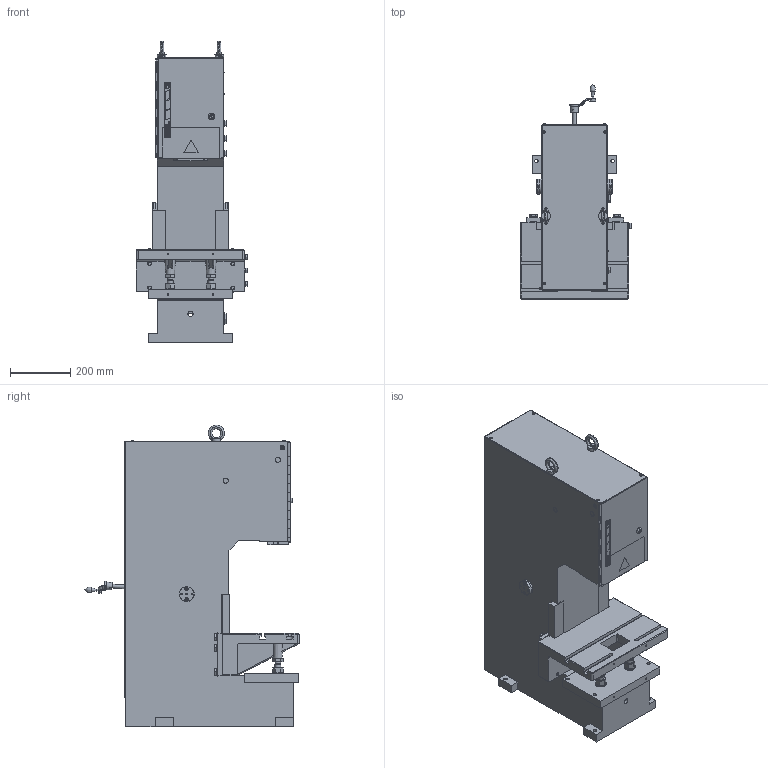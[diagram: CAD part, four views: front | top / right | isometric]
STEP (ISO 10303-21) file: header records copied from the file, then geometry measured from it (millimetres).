
FILE_DESCRIPTION(/* description */ (''),/* implementation_level */ '2;1');
FILE_NAME(/* name */ 'P:\CAD-Daten-für-Kunden\07_Pressen KHP\01_KHP Standard\Presse_KHP_70kN_G800_Hub62_ANR18620.stp',/* time_stamp */ '2021-03-08T07:52:43+01:00',/* author */ ('tse'),/* organization */ (''),/* preprocessor_version */ 'ST-DEVELOPER v18',/* originating_system */ 'Autodesk Inventor 2020',/* authorisation */ '');
FILE_SCHEMA (('AUTOMOTIVE_DESIGN { 1 0 10303 214 3 1 1 }'));
Products named in the file (4): Presse_KHP_70kN_G800_Hub62_ANR18620; Ständereinheit_KHP_50-70kN_G800_V; Tischeinheit_KHP_50-70-100kN_HPC_110kN_ANR18613; Schlittendummy_KHP_50-70-100kN_HPC_110kN_ANR18607
Assembly tree (3 placements, depth 2):
  Presse_KHP_70kN_G800_Hub62_ANR18620
    Ständereinheit_KHP_50-70kN_G800_V
    Tischeinheit_KHP_50-70-100kN_HPC_110kN_ANR18613
    Schlittendummy_KHP_50-70-100kN_HPC_110kN_ANR18607
Bounding box: 370 x 714.17 x 1005 mm (x, y, z)
Volume: 88867551.2 mm3; surface area: 2564762.6 mm2
Topology: 3 solids, 38 shells, 6685 faces, 18054 edges, 12026 vertices
Faces by surface type: plane 3549, bspline 2535, cylinder 381, cone 169, torus 46, sphere 5
Full cylindrical faces by diameter (mm): 1.5 x1, 2 x12, 2.1 x4, 2.5 x2, 3 x11, 3.242 x4, 4 x14, 4.917 x23, 5 x12, 5.9 x1, 6 x5, 6.6 x4, 7 x5, 7.5 x3, 7.8 x2, 8 x16, 8.376 x8, 10 x12, 10.5 x12, 10.8 x2, 11 x14, 11.835 x6, 12.4 x1, 13 x2, 14 x6, 14.5 x6, 15 x10, 16 x5, 17.294 x3, 17.5 x2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
Entity records: 228953 total; most frequent: CARTESIAN_POINT 70775, ORIENTED_EDGE 36060, DIRECTION 22368, EDGE_CURVE 18030, VERTEX_POINT 12026, LINE 10972, VECTOR 10972, EDGE_LOOP 7462
